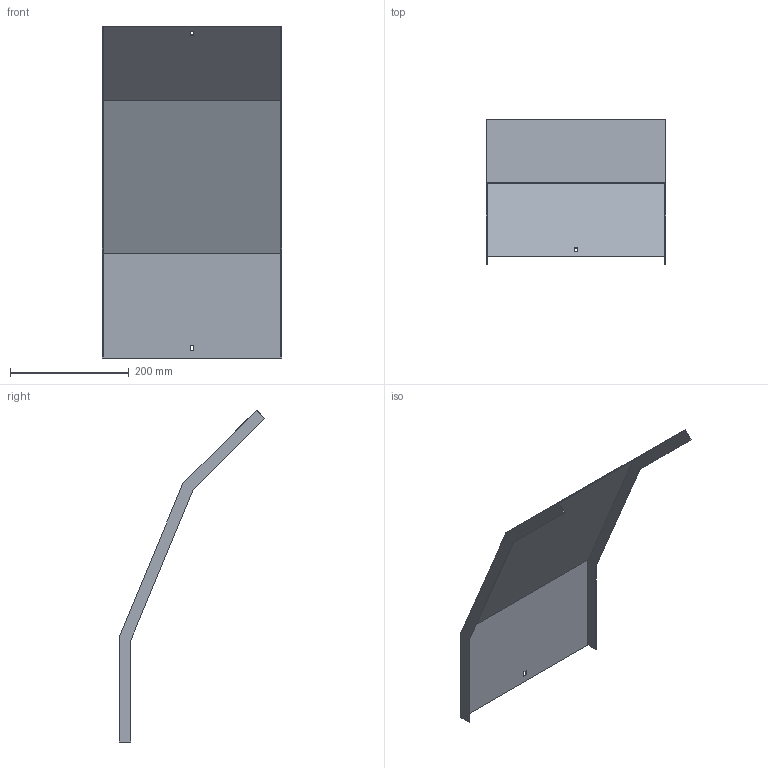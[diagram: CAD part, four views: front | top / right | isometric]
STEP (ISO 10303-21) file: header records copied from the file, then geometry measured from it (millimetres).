
FILE_DESCRIPTION (( 'STEP AP214' ), '1' );
FILE_NAME ('A2_34N3J300.step', '2025-02-21T10:35:21', ( '' ), ( '' ), 'SwSTEP 2.0', 'SolidWorks 2023', '' );
FILE_SCHEMA (( 'AUTOMOTIVE_DESIGN' ));
Length unit declared in the file: millimetre
Products named in the file (1): A2_34N3J300
Bounding box: 303 x 246.09 x 559.98 mm (x, y, z)
Volume: 321864.2 mm3; surface area: 432118.1 mm2
Topology: 1 solids, 1 shells, 26 faces, 72 edges, 48 vertices
Faces by surface type: plane 26
Entity records: 847 total; most frequent: CARTESIAN_POINT 147, ORIENTED_EDGE 144, DIRECTION 126, LINE 72, VECTOR 72, EDGE_CURVE 72, VERTEX_POINT 48, EDGE_LOOP 30
